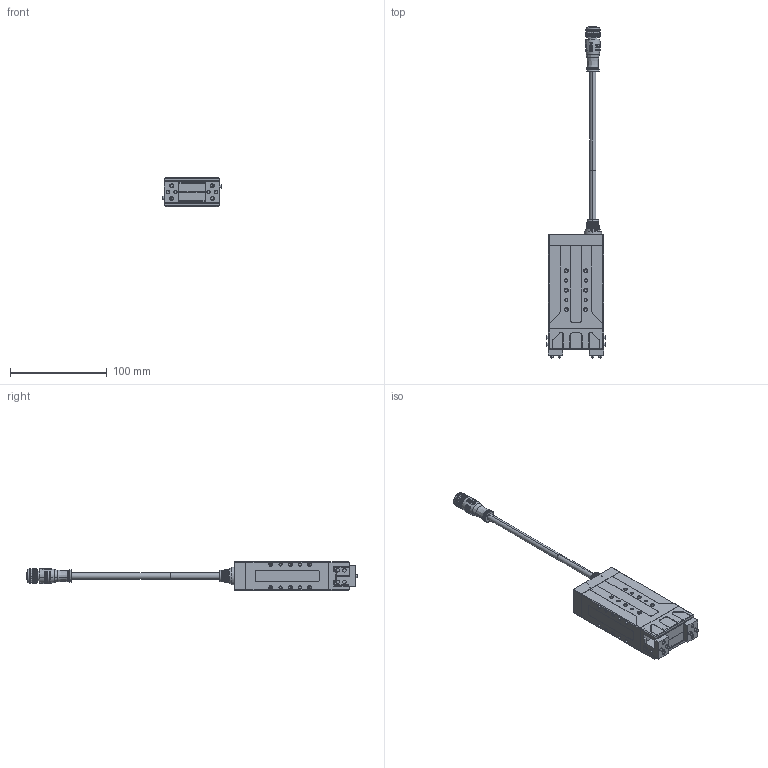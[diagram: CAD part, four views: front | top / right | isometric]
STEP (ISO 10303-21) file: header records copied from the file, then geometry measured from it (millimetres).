
FILE_DESCRIPTION (( 'STEP AP214' ), '1' );
FILE_NAME ('PGE-100-26-O-B.STEP', '2023-07-19T03:27:54', ( '' ), ( '' ), 'SwSTEP 2.0', 'SolidWorks 2020', '' );
FILE_SCHEMA (( 'AUTOMOTIVE_DESIGN' ));
Length unit declared in the file: millimetre
Products named in the file (3): 菁堤褲; 價釱硌潑; PGE-100-26-O-B
Assembly tree (3 placements, depth 2):
  PGE-100-26-O-B
    菁堤褲
    價釱硌潑  x2
Bounding box: 60.6 x 343 x 30 mm (x, y, z)
Volume: 14976 mm3; surface area: 53075.9 mm2
Topology: 2 solids, 19 shells, 1502 faces, 3683 edges, 2283 vertices
Faces by surface type: plane 516, cylinder 406, cone 306, bspline 243, torus 30, sphere 1
Full cylindrical faces by diameter (mm): 11.1 x3
Entity records: 72852 total; most frequent: CARTESIAN_POINT 26853, ORIENTED_EDGE 6754, DIRECTION 5688, EDGE_CURVE 3381, VERTEX_POINT 2138, AXIS2_PLACEMENT_3D 2130, EDGE_LOOP 1539, VECTOR 1428
